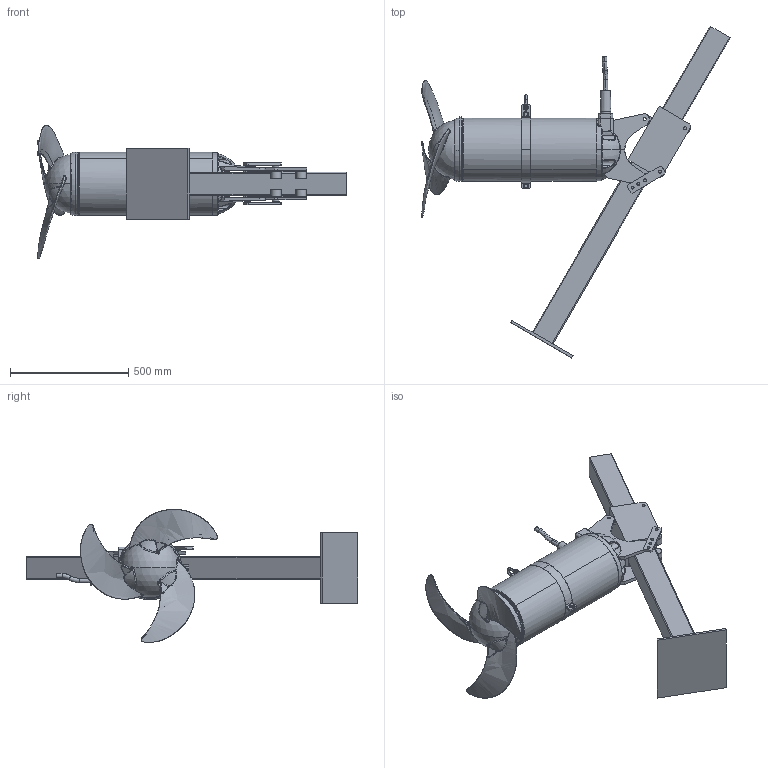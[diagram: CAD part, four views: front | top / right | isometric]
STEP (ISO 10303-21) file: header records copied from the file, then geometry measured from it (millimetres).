
FILE_DESCRIPTION (( 'STEP AP214' ), '1' );
FILE_NAME ('RW650 Vkt.100 with vertical angle adjustment -30°_MSD.STEP', '2017-04-03T06:50:11', ( '' ), ( '' ), 'SwSTEP 2.0', 'SolidWorks 2017', '' );
FILE_SCHEMA (( 'AUTOMOTIVE_DESIGN' ));
Length unit declared in the file: millimetre
Products named in the file (1): RW650 Vkt.100 with vertical angle adjustment -30°_MSD
Bounding box: 1308.81 x 1406.39 x 564.56 mm (x, y, z)
Volume: 59118821.9 mm3; surface area: 2552509.5 mm2
Topology: 4 solids, 12 shells, 793 faces, 1975 edges, 1226 vertices
Faces by surface type: plane 248, cylinder 221, bspline 190, cone 67, torus 57, sphere 10
Entity records: 173681 total; most frequent: CARTESIAN_POINT 147393, ORIENTED_EDGE 3884, DIRECTION 3299, EDGE_CURVE 1942, AXIS2_PLACEMENT_3D 1312, VERTEX_POINT 1218, EDGE_LOOP 888, UNCERTAINTY_MEASURE_WITH_UNIT 799
